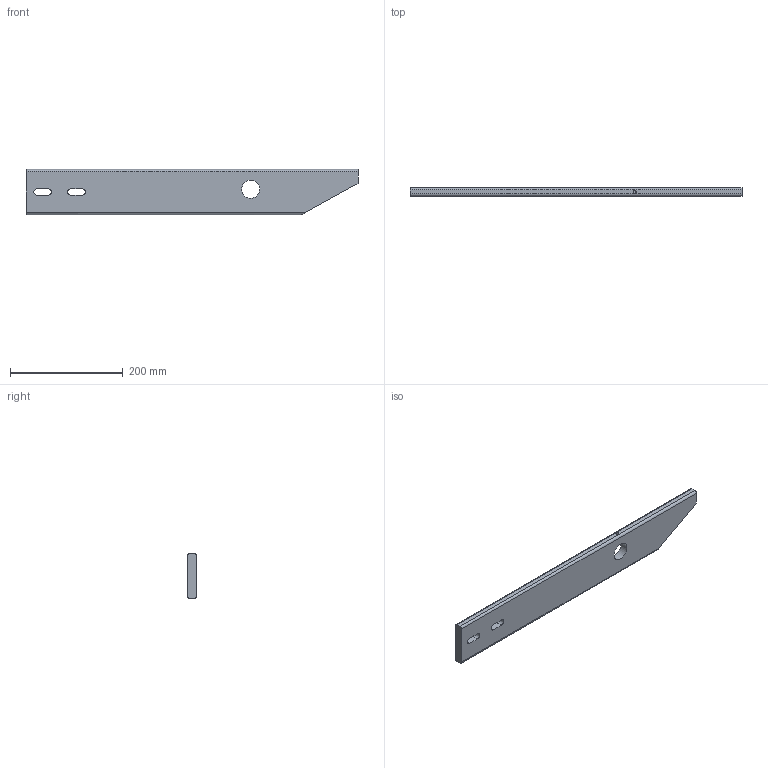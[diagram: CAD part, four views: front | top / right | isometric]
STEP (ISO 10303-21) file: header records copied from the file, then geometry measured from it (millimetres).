
FILE_DESCRIPTION(/* description */ (''),/* implementation_level */ '2;1');
FILE_NAME(/* name */ 'Pos119-BALUSTER PROFIEL 80X15 R4-Aluminium-9st',/* time_stamp */ '2024-08-06T11:49:44+02:00',/* author */ (''),/* organization */ (''),/* preprocessor_version */ 'ST-DEVELOPER v16.5',/* originating_system */ 'HiCAD 2024 2901.2 Build 361',/* authorisation */ '');
FILE_SCHEMA (('AUTOMOTIVE_DESIGN { 1 0 10303 214 1 1 1 1 }'));
Length unit declared in the file: millimetre
Products named in the file (1): Pos119-BALUSTER PROFIEL 80X15 R4-Aluminium-9st
Bounding box: 588 x 15 x 80 mm (x, y, z)
Volume: 634056.5 mm3; surface area: 106212.9 mm2
Topology: 1 solids, 1 shells, 25 faces, 73 edges, 50 vertices
Faces by surface type: cylinder 12, plane 11, cone 2
Full cylindrical faces by diameter (mm): 5 x3, 32 x1
Entity records: 1378 total; most frequent: CARTESIAN_POINT 137, DIRECTION 131, PRESENTATION_STYLE_ASSIGNMENT 119, COLOUR_RGB 119, DRAUGHTING_PRE_DEFINED_CURVE_FONT 118, CURVE_STYLE 118, OVER_RIDING_STYLED_ITEM 118, ORIENTED_EDGE 118
